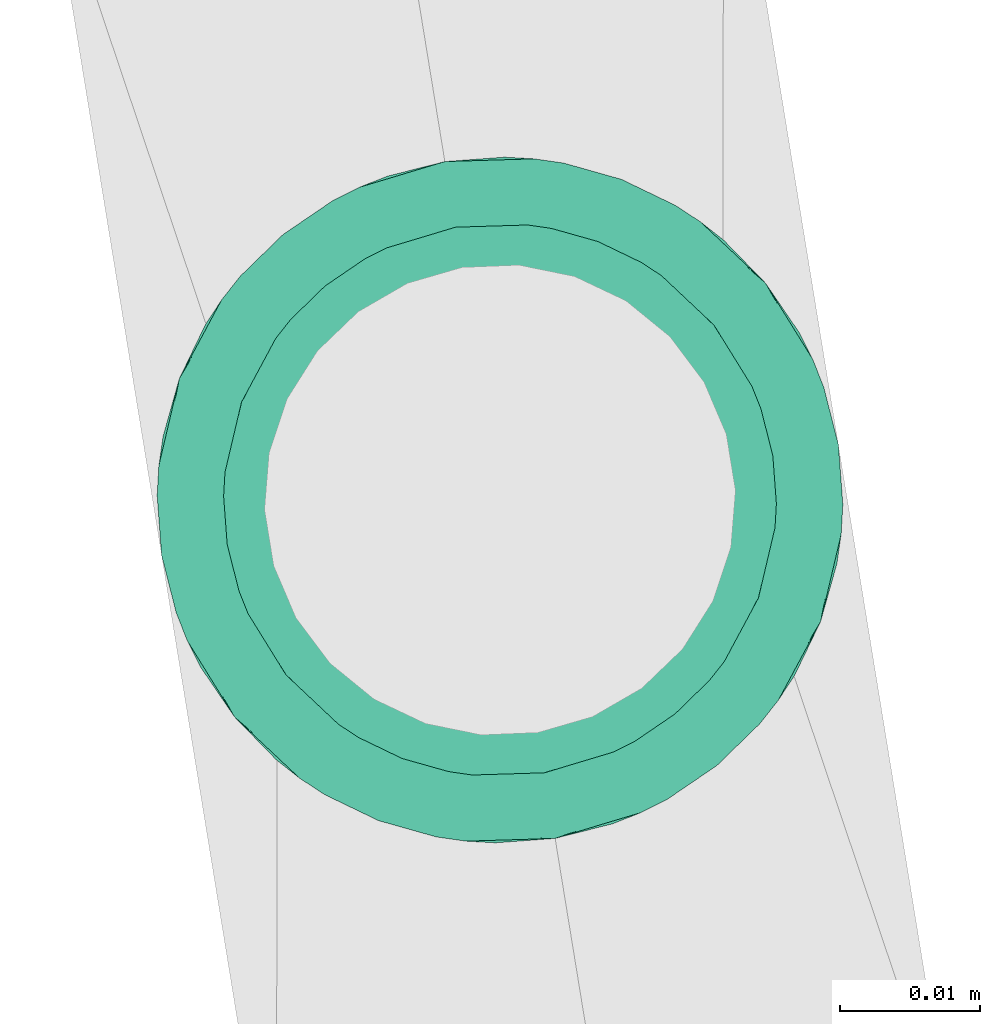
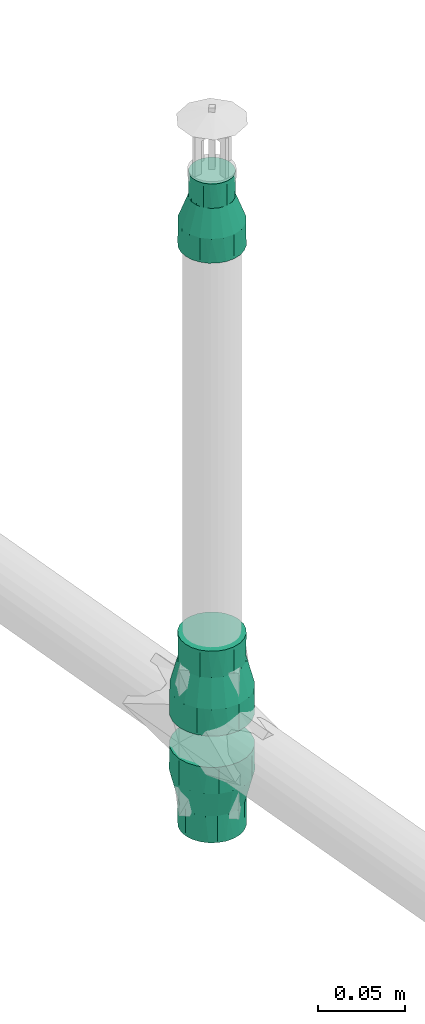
# One storey, part 44 of 56: 3 flow fittings.
"""IFC2X3 building model written with IfcOpenShell, lengths in millimetres."""

from ifc_helpers import new_model, entity, si_unit, converted_unit, derived_unit, direction, frame, origin, origin_with_axes, place, context, subcontext, project, spatial, faceted_brep, source, transform, mapped, material, type_object, element, save


model = new_model("IFC2X3")

# Units and contexts
model_context = context("Model", 3, precision=0.01, world=origin(), true_north=direction((6.12323399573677e-17, 1.0)))
plan_context = context("Plan", 3, precision=1e-05, world=origin_with_axes())
body_context = subcontext(model_context, "Body", "Model", "MODEL_VIEW")
ifc_project = project(units=[converted_unit("PLANEANGLEUNIT", "DEGREE", entity("IfcPositiveLengthMeasure", 0.0174532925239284), si_unit("PLANEANGLEUNIT", "RADIAN"), dimensions=[0, 0, 0, 0, 0, 0, 0]), si_unit("AREAUNIT", "SQUARE_METRE"), si_unit("LENGTHUNIT", "METRE", prefix="MILLI"), si_unit("MASSUNIT", "GRAM", prefix="KILO"), si_unit("POWERUNIT", "WATT"), si_unit("PRESSUREUNIT", "PASCAL", prefix="KILO"), si_unit("FORCEUNIT", "NEWTON", prefix="KILO"), si_unit("ELECTRICVOLTAGEUNIT", "VOLT"), si_unit("ELECTRICCURRENTUNIT", "AMPERE"), si_unit("THERMODYNAMICTEMPERATUREUNIT", "DEGREE_CELSIUS"), si_unit("TIMEUNIT", "SECOND"), si_unit("VOLUMEUNIT", "CUBIC_METRE"), derived_unit("LINEARVELOCITYUNIT", [(si_unit("LENGTHUNIT", "METRE"), 1), (si_unit("TIMEUNIT", "SECOND"), -1)]), derived_unit("VOLUMETRICFLOWRATEUNIT", [(si_unit("VOLUMEUNIT", "CUBIC_METRE"), 1), (si_unit("TIMEUNIT", "SECOND"), -1)]), derived_unit("THERMALTRANSMITTANCEUNIT", [(si_unit("POWERUNIT", "WATT"), 1), (si_unit("THERMODYNAMICTEMPERATUREUNIT", "KELVIN"), -1), (si_unit("AREAUNIT", "SQUARE_METRE"), -1)]), derived_unit("SOUNDPRESSUREUNIT", [(si_unit("PRESSUREUNIT", "PASCAL"), 1)])], contexts=[model_context, plan_context])

# Site, building, storey
site_placement = place(None, frame((-3.09682673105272e-06, 1.93776733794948e-05, 0.0), z_axis=(0.0, 0.0, 1.0), x_axis=(-0.160806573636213, 0.986985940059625, 0.0)))
site = spatial("IfcSite", under=ifc_project, at=site_placement, Name="Default", CompositionType="ELEMENT")
building_placement = place(site_placement, frame((0.0, 0.0, 0.0), z_axis=(0.0, 0.0, 1.0), x_axis=(1.0, -2.77555756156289e-17, 0.0)))
building = spatial("IfcBuilding", under=site, at=building_placement, Name="Bygning (endres i Project Information)", CompositionType="ELEMENT")
storey_placement = place(building_placement, frame((0.0, 0.0, 51360.0000000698), z_axis=(0.0, 0.0, 1.0), x_axis=(1.0, -2.77555756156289e-17, 0.0)))
storey = spatial("IfcBuildingStorey", under=building, at=storey_placement, Name="H01-Nivå D+0,36", CompositionType="ELEMENT", Elevation=51360.0000000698)

# Flow fittings
ifc_material = material(Name="3320.001")
pipe_fitting_type_1 = type_object("IfcPipeFittingType", Name="RS_53_PIF_UN_Reducing-Socket-EN10241_MC_gen:RS_53_PIF_UN_Reducing-Socket-EN10241_MC_gen", PredefinedType="NOTDEFINED", material=ifc_material)
shared_shape_1 = source(origin(), body_context, "Body", "Brep", [
    faceted_brep([(0.0, 5.11167614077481, 19.0770350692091), (0.0, 9.87500000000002, 17.1040017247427), (0.0, 13.9653589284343, 13.9653589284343), (0.0, 17.1040017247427, 9.87499999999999), (0.0, 19.0770350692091, 5.11167614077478), (0.0, 19.75, 0.0), (0.0, 19.0770350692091, -5.1116761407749), (0.0, 17.1040017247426, -9.8750000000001), (0.0, 13.9653589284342, -13.9653589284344), (0.0, 9.87499999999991, -17.1040017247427), (0.0, 5.11167614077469, -19.0770350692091), (0.0, 0.0, -19.75), (0.0, -5.11167614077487, -19.0770350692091), (0.0, -9.87500000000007, -17.1040017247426), (0.0, -13.9653589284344, -13.9653589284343), (0.0, -17.1040017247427, -9.87499999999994), (0.0, -19.0770350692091, -5.11167614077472), (0.0, -19.75, 0.0), (0.0, -19.0770350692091, 5.11167614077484), (0.0, -17.1040017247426, 9.87500000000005), (0.0, -13.9653589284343, 13.9653589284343), (0.0, -9.87499999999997, 17.1040017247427), (0.0, -5.11167614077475, 19.0770350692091), (0.0, 0.0, 19.75), (17.0, -6.65118285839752, -18.277344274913), (17.0, -15.1289479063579, -12.6955675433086), (17.0, -16.8438814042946, -9.72538978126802), (17.0, -18.5588149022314, -6.7552120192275), (17.0, -9.87413131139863, -17.1045032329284), (17.0, -12.5015396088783, -14.9000353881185), (17.0, -19.1544074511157, -3.37760600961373), (17.0, -3.42823440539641, -19.4501853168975), (17.0, 3.43119786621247, -19.4496627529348), (17.0, 0.0014817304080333, -19.4499240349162), (17.0, -19.75, 0.0), (17.0, 6.65396758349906, -18.2763306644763), (17.0, 9.87673730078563, -17.1029985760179), (17.0, 18.5598439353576, -6.75238425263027), (17.0, 16.8453630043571, -9.7228232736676), (17.0, 15.1308820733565, -12.6932622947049), (17.0, 12.5038096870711, -14.8981304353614), (17.0, 19.75, 0.0), (17.0, 15.1308820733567, 12.6932622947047), (17.0, 16.8453630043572, 9.72282327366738), (17.0, 18.5598439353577, 6.75238425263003), (17.0, 9.87673730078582, 17.1029985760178), (17.0, 12.5038096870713, 14.8981304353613), (17.0, 3.43119786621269, 19.4496627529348), (17.0, 6.65396758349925, 18.2763306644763), (17.0, -3.4282344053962, 19.4501853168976), (17.0, 0.00148173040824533, 19.4499240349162), (17.0, -15.1289479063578, 12.6955675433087), (17.0, -6.65118285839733, 18.277344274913), (17.0, -9.87413131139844, 17.1045032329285), (17.0, -12.5015396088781, 14.9000353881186), (17.0, -19.1544074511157, 3.37760600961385), (17.0, -18.5588149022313, 6.75521201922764), (17.0, -16.8438814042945, 9.72538978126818), (34.0, 13.5000000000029, 0.0), (34.0, 12.6868795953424, -4.61444320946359), (34.0, -4.54589529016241, -12.4935366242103), (34.0, -2.34276817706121, -13.2951659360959), (34.0, 6.75195505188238, -11.6902139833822), (34.0, 0.00166747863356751, -13.2948718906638), (34.0, 2.34610313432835, -13.2945778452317), (34.0, 10.3432928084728, -8.67561489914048), (34.0, 8.54762393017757, -10.1829144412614), (34.0, 4.54902909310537, -12.492395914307), (34.0, 11.5150862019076, -6.64502905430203), (34.0, -6.74902240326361, -11.6919073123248), (34.0, -13.4999999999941, 0.0), (34.0, -13.0928608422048, -2.30881275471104), (34.0, -10.3411162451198, -8.6782091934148), (34.0, -8.54506932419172, -10.1850582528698), (34.0, -12.6857216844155, -4.61762550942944), (34.0, -11.5134189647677, -6.64791735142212), (34.0, -13.0928608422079, 2.30881275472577), (34.0, -12.6857216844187, 4.6176255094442), (34.0, 2.34610313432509, 13.2945778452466), (34.0, 4.54902909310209, 12.4923959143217), (34.0, -10.3411162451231, 8.67820919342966), (34.0, 0.00166747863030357, 13.2948718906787), (34.0, -6.74902240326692, 11.6919073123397), (34.0, -8.54506932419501, 10.1850582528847), (34.0, -11.5134189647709, 6.64791735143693), (34.0, -2.34276817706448, 13.2951659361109), (34.0, -4.5458952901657, 12.4935366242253), (34.0, 12.6868795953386, 4.61444320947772), (34.0, 11.5150862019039, 6.64502905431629), (34.0, 10.3432928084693, 8.67561489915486), (34.0, 6.7519550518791, 11.6902139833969), (34.0, 8.54762393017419, 10.1829144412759), (51.0, 3.49405710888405, -13.0399986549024), (51.0, 6.75000000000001, -11.6913429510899), (51.0, 9.5459415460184, -9.54594154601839), (51.0, 11.6913429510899, -6.74999999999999), (51.0, 13.0399986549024, -3.49405710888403), (51.0, 13.5, 0.0), (51.0, 13.0399986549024, 3.49405710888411), (51.0, 11.6913429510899, 6.75000000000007), (51.0, 9.54594154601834, 9.54594154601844), (51.0, 6.74999999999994, 11.69134295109), (51.0, 3.49405710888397, 13.0399986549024), (51.0, 0.0, 13.5), (51.0, -3.49405710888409, 13.0399986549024), (51.0, -6.75000000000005, 11.6913429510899), (51.0, -9.54594154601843, 9.54594154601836), (51.0, -11.6913429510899, 6.74999999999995), (51.0, -13.0399986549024, 3.49405710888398), (51.0, -13.5, 0.0), (51.0, -13.0399986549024, -3.49405710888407), (51.0, -11.6913429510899, -6.75000000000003), (51.0, -9.54594154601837, -9.54594154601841), (51.0, -6.74999999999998, -11.6913429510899), (51.0, -3.49405710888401, -13.0399986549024), (51.0, 0.0, -13.5)], [[[0, 1, 2, 3, 4, 5, 6, 7, 8, 9, 10, 11, 12, 13, 14, 15, 16, 17, 18, 19, 20, 21, 22, 23]], [[24, 13, 12]], [[15, 14, 25]], [[15, 25, 26, 27]], [[28, 29, 13]], [[16, 27, 30]], [[30, 17, 16]], [[15, 27, 16]], [[12, 31, 24]], [[25, 14, 29]], [[11, 32, 33, 31]], [[24, 28, 13]], [[13, 29, 14]], [[30, 34, 17]], [[32, 11, 10]], [[35, 9, 36]], [[7, 37, 38, 39]], [[9, 35, 10]], [[7, 6, 37]], [[8, 39, 40]], [[32, 10, 35]], [[7, 39, 8]], [[40, 36, 9]], [[6, 41, 37]], [[6, 5, 41]], [[11, 31, 12]], [[40, 9, 8]], [[41, 5, 4]], [[3, 2, 42]], [[3, 42, 43, 44]], [[45, 46, 1]], [[44, 41, 4]], [[0, 47, 48]], [[42, 2, 46]], [[23, 49, 50, 47]], [[1, 46, 2]], [[49, 23, 22]], [[19, 51, 20]], [[52, 21, 53]], [[3, 44, 4]], [[48, 45, 1]], [[54, 53, 21]], [[17, 34, 55]], [[21, 52, 22]], [[20, 51, 54]], [[49, 22, 52]], [[48, 1, 0]], [[17, 55, 18]], [[56, 19, 18]], [[18, 55, 56]], [[54, 21, 20]], [[57, 51, 19, 56]], [[23, 47, 0]], [[41, 58, 59]], [[60, 31, 61]], [[40, 62, 36]], [[63, 32, 64]], [[65, 39, 38]], [[64, 32, 35]], [[61, 33, 63]], [[37, 41, 59]], [[62, 40, 66]], [[40, 39, 66]], [[35, 36, 67]], [[65, 38, 68]], [[37, 68, 38]], [[64, 35, 67]], [[61, 31, 33]], [[69, 28, 24]], [[69, 24, 60]], [[70, 30, 71]], [[72, 29, 73]], [[30, 70, 34]], [[74, 27, 26]], [[68, 37, 59]], [[72, 25, 29]], [[27, 74, 71]], [[31, 60, 24]], [[29, 28, 73]], [[75, 26, 25]], [[67, 36, 62]], [[66, 39, 65]], [[27, 71, 30]], [[74, 26, 75]], [[73, 28, 69]], [[63, 33, 32]], [[75, 25, 72]], [[56, 76, 77]], [[48, 78, 79]], [[54, 51, 80]], [[81, 47, 50]], [[57, 56, 77]], [[52, 53, 82]], [[82, 53, 83]], [[55, 70, 76]], [[70, 55, 34]], [[84, 51, 57]], [[50, 85, 81]], [[56, 55, 76]], [[86, 49, 52]], [[83, 53, 54]], [[81, 78, 47]], [[48, 47, 78]], [[80, 51, 84]], [[49, 85, 50]], [[87, 44, 88]], [[87, 58, 41]], [[43, 42, 89]], [[57, 77, 84]], [[46, 45, 90]], [[85, 49, 86]], [[88, 44, 43]], [[54, 80, 83]], [[91, 42, 46]], [[52, 82, 86]], [[89, 42, 91]], [[87, 41, 44]], [[90, 45, 79]], [[46, 90, 91]], [[79, 45, 48]], [[43, 89, 88]], [[92, 93, 94, 95, 96, 97, 98, 99, 100, 101, 102, 103, 104, 105, 106, 107, 108, 109, 110, 111, 112, 113, 114, 115]], [[58, 97, 96]], [[95, 94, 65]], [[95, 65, 68, 59]], [[62, 66, 93]], [[59, 58, 96]], [[92, 64, 67]], [[65, 94, 66]], [[115, 61, 63, 64]], [[93, 66, 94]], [[67, 93, 92]], [[67, 62, 93]], [[95, 59, 96]], [[114, 61, 115]], [[111, 110, 74]], [[73, 113, 112]], [[109, 71, 110]], [[111, 74, 75, 72]], [[109, 70, 71]], [[60, 61, 114]], [[113, 69, 60]], [[111, 72, 112]], [[113, 60, 114]], [[112, 72, 73]], [[115, 64, 92]], [[71, 74, 110]], [[73, 69, 113]], [[86, 105, 104]], [[107, 106, 80]], [[107, 80, 84, 77]], [[82, 83, 105]], [[108, 77, 76]], [[76, 70, 109]], [[76, 109, 108]], [[104, 85, 86]], [[80, 106, 83]], [[103, 78, 81, 85]], [[91, 101, 100]], [[105, 83, 106]], [[86, 82, 105]], [[78, 103, 102]], [[79, 101, 90]], [[99, 87, 88, 89]], [[101, 79, 102]], [[99, 98, 87]], [[100, 89, 91]], [[78, 102, 79]], [[103, 85, 104]], [[99, 89, 100]], [[98, 58, 87]], [[107, 77, 108]], [[98, 97, 58]], [[91, 90, 101]]]),
])
flow_fitting_1_placement = place(storey_placement, frame((1000236.26325463, -395286.663841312, 3707.99999993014), z_axis=(2.77555756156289e-17, 1.0, 0.0), x_axis=(0.0, 0.0, 1.0)))
element("IfcFlowFitting", 1, at=flow_fitting_1_placement, inside=storey, type_object=pipe_fitting_type_1, material=ifc_material, Name="RS_53_PIF_UN_Reducing-Socket-EN10241_MC_gen:RS_53_PIF_UN_Reducing-Socket-EN10241_MC_gen", ObjectType="RS_53_PIF_UN_Reducing-Socket-EN10241_MC_gen:RS_53_PIF_UN_Reducing-Socket-EN10241_MC_gen", context=body_context, shape_type="MappedRepresentation", body=[
    mapped(shared_shape_1, transform((0.0, 0.0, 0.0), scale=1.0)),
])
pipe_fitting_type_2 = type_object("IfcPipeFittingType", Name="RS_53_PIF_UN_Reducing-Socket-EN10241_MC_gen:RS_53_PIF_UN_Reducing-Socket-EN10241_MC_gen", PredefinedType="NOTDEFINED", material=ifc_material)
shared_shape_2 = source(origin(), body_context, "Body", "Brep", [
    faceted_brep([(0.0, 0.0, 24.5), (0.0, 6.34106660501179, 23.6651827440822), (0.0, 12.25, 21.2176223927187), (0.0, 17.3241161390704, 17.3241161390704), (0.0, 21.2176223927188, 12.25), (0.0, 23.6651827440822, 6.34106660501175), (0.0, 24.5, 0.0), (0.0, 23.6651827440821, -6.34106660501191), (0.0, 21.2176223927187, -12.2500000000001), (0.0, 17.3241161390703, -17.3241161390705), (0.0, 12.2499999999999, -21.2176223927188), (0.0, 6.34106660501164, -23.6651827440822), (0.0, 0.0, -24.5), (0.0, -6.34106660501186, -23.6651827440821), (0.0, -12.2500000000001, -21.2176223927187), (0.0, -17.3241161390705, -17.3241161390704), (0.0, -21.2176223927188, -12.2499999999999), (0.0, -23.6651827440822, -6.34106660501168), (0.0, -24.5, 0.0), (0.0, -23.6651827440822, 6.34106660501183), (0.0, -21.2176223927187, 12.2500000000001), (0.0, -17.3241161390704, 17.3241161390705), (0.0, -12.25, 21.2176223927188), (0.0, -6.34106660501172, 23.6651827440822), (18.6666666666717, -8.25137606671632, -22.6729794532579), (18.6666666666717, -18.7677686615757, -15.7486780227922), (18.6666666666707, -20.8950763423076, -12.0642027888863), (18.6666666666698, -23.0223840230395, -8.37972755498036), (18.6666666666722, -12.2493529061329, -21.2179959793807), (18.6666666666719, -15.5085607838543, -18.4833370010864), (18.6666666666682, -23.7125607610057, -4.46565710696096), (18.6666666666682, -23.7611920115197, -4.18986377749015), (18.6666666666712, -4.25339922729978, -24.1279629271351), (18.6666666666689, 4.25560674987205, -24.1275736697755), (18.6666666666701, 0.00110376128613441, -24.1277682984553), (18.6666666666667, -24.5, 0.0), (18.6666666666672, 8.25345045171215, -22.6722244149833), (18.6666666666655, 12.2512941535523, -21.2168751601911), (18.6666666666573, 23.0231506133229, -8.37762113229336), (18.6666666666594, 20.8961800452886, -12.062290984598), (18.6666666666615, 18.7692094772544, -15.7469608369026), (18.6666666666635, 15.5102518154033, -18.4819179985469), (18.6666666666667, 24.5, 0.0), (18.6666666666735, 18.7692094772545, 15.7469608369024), (18.666666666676, 20.8961800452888, 12.0622909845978), (18.6666666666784, 23.023150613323, 8.3776211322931), (18.6666666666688, 12.2512941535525, 21.216875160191), (18.6666666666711, 15.5102518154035, 18.4819179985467), (18.6666666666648, 4.25560674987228, 24.1275736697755), (18.6666666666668, 8.25345045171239, 22.6722244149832), (18.6666666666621, -4.25339922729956, 24.1279629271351), (18.6666666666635, 0.00110376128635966, 24.1277682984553), (18.6666666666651, -23.7611920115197, 4.1898637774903), (18.6666666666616, -8.25137606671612, 22.672979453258), (18.666666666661, -12.2493529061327, 21.2179959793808), (18.6666666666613, -15.5085607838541, 18.4833370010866), (18.6666666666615, -18.7677686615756, 15.7486780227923), (18.6666666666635, -23.0223840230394, 8.37972755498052), (18.6666666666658, -23.7125607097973, 4.46565739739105), (18.6666666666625, -20.8950763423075, 12.0642027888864), (37.3333333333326, 19.750000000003, 0.0), (37.3333333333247, 18.5595959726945, -6.75306577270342), (37.3333333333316, 9.87626627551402, -17.1032705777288), (37.3333333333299, 12.5033702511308, -14.8985095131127), (37.3333333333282, 15.1304742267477, -12.6937484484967), (37.3333333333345, 3.43075149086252, -19.4497414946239), (37.333333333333, 6.65350888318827, -18.2765060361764), (37.3333333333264, 16.8450350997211, -9.72340711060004), (37.3333333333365, -3.42859151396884, -19.4501223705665), (37.3333333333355, 0.00107998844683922, -19.4499319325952), (37.3333333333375, -9.87436684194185, -17.1043672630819), (37.333333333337, -6.65147917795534, -18.2772448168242), (37.3333333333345, -19.1544229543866, -3.37756341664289), (37.3333333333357, -18.558845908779, -6.75512683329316), (37.3333333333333, -19.7499999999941, 0.0), (37.3333333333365, -16.8439551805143, -9.72527774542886), (37.3333333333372, -15.1290644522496, -12.6954286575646), (37.3333333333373, -12.5017156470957, -14.8998979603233), (37.3333333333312, -18.5588459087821, 6.755126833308), (37.3333333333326, -19.1544229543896, 3.37756341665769), (37.3333333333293, -15.1290644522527, 12.6954286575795), (37.3333333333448, 18.559595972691, 6.75306577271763), (37.3333333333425, 16.8450350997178, 9.72340711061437), (37.3333333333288, -9.87436684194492, 17.104367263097), (37.3333333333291, -12.5017156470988, 14.8998979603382), (37.3333333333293, -6.65147917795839, 18.2772448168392), (37.3333333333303, -16.8439551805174, 9.72527774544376), (37.333333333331, 0.00107998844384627, 19.4499319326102), (37.3333333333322, 3.43075149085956, 19.4497414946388), (37.3333333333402, 15.1304742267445, 12.6937484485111), (37.333333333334, 6.65350888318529, 18.2765060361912), (37.3333333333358, 9.87626627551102, 17.1032705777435), (37.333333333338, 12.5033702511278, 14.8985095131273), (37.3333333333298, -3.42859151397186, 19.4501223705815), (56.0, 5.11167614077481, -19.0770350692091), (56.0, 9.87500000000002, -17.1040017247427), (56.0, 13.9653589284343, -13.9653589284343), (56.0, 17.1040017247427, -9.87499999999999), (56.0, 19.0770350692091, -5.11167614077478), (56.0, 19.75, 0.0), (56.0, 19.0770350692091, 5.1116761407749), (56.0, 17.1040017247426, 9.8750000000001), (56.0, 13.9653589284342, 13.9653589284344), (56.0, 9.87499999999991, 17.1040017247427), (56.0, 5.11167614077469, 19.0770350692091), (56.0, 0.0, 19.75), (56.0, -5.11167614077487, 19.0770350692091), (56.0, -9.87500000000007, 17.1040017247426), (56.0, -13.9653589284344, 13.9653589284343), (56.0, -17.1040017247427, 9.87499999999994), (56.0, -19.0770350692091, 5.11167614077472), (56.0, -19.75, 0.0), (56.0, -19.0770350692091, -5.11167614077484), (56.0, -17.1040017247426, -9.87500000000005), (56.0, -13.9653589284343, -13.9653589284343), (56.0, -9.87499999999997, -17.1040017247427), (56.0, -5.11167614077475, -19.0770350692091), (56.0, 0.0, -19.75)], [[[0, 1, 2, 3, 4, 5, 6, 7, 8, 9, 10, 11, 12, 13, 14, 15, 16, 17, 18, 19, 20, 21, 22, 23]], [[24, 14, 13]], [[16, 15, 25]], [[16, 25, 26, 27]], [[28, 29, 14]], [[17, 27, 30, 31]], [[31, 18, 17]], [[16, 27, 17]], [[13, 32, 24]], [[25, 15, 29]], [[12, 33, 34, 32]], [[24, 28, 14]], [[14, 29, 15]], [[31, 35, 18]], [[33, 12, 11]], [[36, 10, 37]], [[8, 38, 39, 40]], [[10, 36, 11]], [[8, 7, 38]], [[9, 40, 41]], [[33, 11, 36]], [[8, 40, 9]], [[41, 37, 10]], [[7, 42, 38]], [[7, 6, 42]], [[12, 32, 13]], [[41, 10, 9]], [[42, 6, 5]], [[4, 3, 43]], [[4, 43, 44, 45]], [[46, 47, 2]], [[45, 42, 5]], [[1, 48, 49]], [[43, 3, 47]], [[0, 50, 51, 48]], [[2, 47, 3]], [[50, 0, 23]], [[0, 48, 1]], [[18, 52, 19]], [[53, 22, 54]], [[49, 2, 1]], [[55, 22, 21]], [[35, 52, 18]], [[4, 45, 5]], [[22, 53, 23]], [[21, 56, 55]], [[50, 23, 53]], [[49, 46, 2]], [[20, 56, 21]], [[57, 20, 19]], [[19, 52, 58, 57]], [[55, 54, 22]], [[59, 56, 20, 57]], [[42, 60, 61]], [[41, 62, 37]], [[63, 40, 64]], [[40, 39, 64]], [[33, 36, 65]], [[65, 36, 66]], [[38, 42, 61]], [[64, 39, 67]], [[41, 40, 63]], [[36, 37, 66]], [[62, 41, 63]], [[38, 67, 39]], [[68, 34, 69]], [[68, 32, 34]], [[24, 70, 28]], [[32, 68, 71]], [[72, 35, 31, 30]], [[73, 27, 26]], [[72, 74, 35]], [[26, 75, 73]], [[76, 25, 29]], [[29, 77, 76]], [[70, 24, 71]], [[24, 32, 71]], [[70, 77, 28]], [[76, 75, 25]], [[28, 77, 29]], [[25, 75, 26]], [[73, 30, 27]], [[30, 73, 72]], [[66, 37, 62]], [[69, 34, 33]], [[69, 33, 65]], [[67, 38, 61]], [[78, 58, 79]], [[80, 55, 56]], [[81, 45, 82]], [[78, 59, 57]], [[83, 53, 54]], [[55, 80, 84]], [[79, 58, 52, 35]], [[78, 57, 58]], [[84, 54, 55]], [[85, 50, 53]], [[79, 35, 74]], [[86, 56, 59]], [[84, 83, 54]], [[48, 87, 88]], [[49, 48, 88]], [[59, 78, 86]], [[53, 83, 85]], [[87, 48, 51]], [[81, 60, 42]], [[44, 43, 89]], [[90, 46, 49]], [[47, 46, 91]], [[86, 80, 56]], [[82, 45, 44]], [[49, 88, 90]], [[92, 43, 47]], [[91, 46, 90]], [[51, 50, 93]], [[42, 45, 81]], [[85, 93, 50]], [[44, 89, 82]], [[51, 93, 87]], [[47, 91, 92]], [[89, 43, 92]], [[94, 95, 96, 97, 98, 99, 100, 101, 102, 103, 104, 105, 106, 107, 108, 109, 110, 111, 112, 113, 114, 115, 116, 117]], [[60, 99, 98]], [[97, 96, 64]], [[97, 64, 67, 61]], [[62, 63, 95]], [[61, 60, 98]], [[94, 65, 66]], [[64, 96, 63]], [[117, 68, 69, 65]], [[95, 63, 96]], [[117, 116, 68]], [[77, 70, 115]], [[66, 95, 94]], [[115, 70, 71]], [[113, 112, 73]], [[115, 71, 116]], [[117, 65, 94]], [[97, 61, 98]], [[72, 111, 74]], [[71, 68, 116]], [[113, 76, 114]], [[114, 76, 77]], [[77, 115, 114]], [[113, 73, 75, 76]], [[111, 72, 112]], [[66, 62, 95]], [[72, 73, 112]], [[85, 107, 106]], [[109, 108, 80]], [[109, 80, 86, 78]], [[83, 84, 107]], [[110, 78, 79]], [[79, 111, 110]], [[109, 78, 110]], [[106, 93, 85]], [[80, 108, 84]], [[105, 88, 87, 93]], [[85, 83, 107]], [[107, 84, 108]], [[79, 74, 111]], [[88, 105, 104]], [[90, 103, 91]], [[101, 81, 82, 89]], [[103, 90, 104]], [[101, 100, 81]], [[102, 89, 92]], [[88, 104, 90]], [[101, 89, 102]], [[92, 91, 103]], [[100, 60, 81]], [[100, 99, 60]], [[105, 93, 106]], [[92, 103, 102]]]),
])
flow_fitting_2_placement = place(storey_placement, frame((1000236.26325463, -395286.663841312, 3380.93333333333), z_axis=(2.77555756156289e-17, 1.0, 0.0), x_axis=(0.0, 0.0, 1.0)))
element("IfcFlowFitting", 2, at=flow_fitting_2_placement, inside=storey, type_object=pipe_fitting_type_2, material=ifc_material, Name="RS_53_PIF_UN_Reducing-Socket-EN10241_MC_gen:RS_53_PIF_UN_Reducing-Socket-EN10241_MC_gen", ObjectType="RS_53_PIF_UN_Reducing-Socket-EN10241_MC_gen:RS_53_PIF_UN_Reducing-Socket-EN10241_MC_gen", context=body_context, shape_type="MappedRepresentation", body=[
    mapped(shared_shape_2, transform((0.0, 0.0, 0.0), scale=1.0)),
])
pipe_fitting_type_3 = type_object("IfcPipeFittingType", Name="RS_53_PIF_UN_Reducing-Socket-EN10241_MC_gen:RS_53_PIF_UN_Reducing-Socket-EN10241_MC_gen", PredefinedType="NOTDEFINED", material=ifc_material)
shared_shape_3 = source(origin(), body_context, "Body", "Brep", [
    faceted_brep([(0.0, -12.25, 21.2176223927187), (0.0, -6.34106660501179, 23.6651827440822), (0.0, 0.0, 24.5), (0.0, 6.34106660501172, 23.6651827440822), (0.0, 12.25, 21.2176223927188), (0.0, 17.3241161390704, 17.3241161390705), (0.0, 21.2176223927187, 12.2500000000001), (0.0, 23.6651827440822, 6.34106660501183), (0.0, 24.5, 0.0), (0.0, 23.6651827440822, -6.34106660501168), (0.0, 21.2176223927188, -12.2499999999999), (0.0, 17.3241161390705, -17.3241161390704), (0.0, 12.2500000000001, -21.2176223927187), (0.0, 6.34106660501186, -23.6651827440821), (0.0, 0.0, -24.5), (0.0, -6.34106660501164, -23.6651827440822), (0.0, -12.2499999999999, -21.2176223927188), (0.0, -17.3241161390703, -17.3241161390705), (0.0, -21.2176223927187, -12.2500000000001), (0.0, -23.6651827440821, -6.34106660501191), (0.0, -24.5, 0.0), (0.0, -23.6651827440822, 6.34106660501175), (0.0, -21.2176223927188, 12.25), (0.0, -17.3241161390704, 17.3241161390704), (18.6666666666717, 8.25137606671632, -22.6729794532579), (18.6666666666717, 18.7677686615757, -15.7486780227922), (18.6666666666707, 20.8950763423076, -12.0642027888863), (18.6666666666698, 23.0223840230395, -8.37972755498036), (18.6666666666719, 15.5085607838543, -18.4833370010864), (18.6666666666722, 12.2493529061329, -21.2179959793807), (18.6666666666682, 23.7611920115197, -4.18986377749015), (18.6666666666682, 23.7125607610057, -4.46565710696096), (18.6666666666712, 4.25339922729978, -24.1279629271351), (18.6666666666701, -0.00110376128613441, -24.1277682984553), (18.6666666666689, -4.25560674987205, -24.1275736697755), (18.6666666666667, 24.5, 0.0), (18.6666666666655, -12.2512941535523, -21.2168751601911), (18.6666666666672, -8.25345045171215, -22.6722244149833), (18.6666666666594, -20.8961800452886, -12.062290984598), (18.6666666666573, -23.0231506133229, -8.37762113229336), (18.6666666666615, -18.7692094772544, -15.7469608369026), (18.6666666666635, -15.5102518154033, -18.4819179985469), (18.6666666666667, -24.5, 0.0), (18.6666666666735, -18.7692094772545, 15.7469608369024), (18.666666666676, -20.8961800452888, 12.0622909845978), (18.6666666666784, -23.023150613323, 8.3776211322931), (18.6666666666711, -15.5102518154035, 18.4819179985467), (18.6666666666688, -12.2512941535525, 21.216875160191), (18.6666666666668, -8.25345045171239, 22.6722244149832), (18.6666666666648, -4.25560674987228, 24.1275736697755), (18.6666666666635, -0.00110376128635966, 24.1277682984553), (18.6666666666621, 4.25339922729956, 24.1279629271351), (18.6666666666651, 23.7611920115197, 4.1898637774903), (18.666666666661, 12.2493529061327, 21.2179959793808), (18.6666666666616, 8.25137606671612, 22.672979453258), (18.6666666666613, 15.5085607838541, 18.4833370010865), (18.6666666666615, 18.7677686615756, 15.7486780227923), (18.6666666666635, 23.0223840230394, 8.37972755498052), (18.6666666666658, 23.7125607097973, 4.46565739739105), (18.6666666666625, 20.8950763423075, 12.0642027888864), (37.3333333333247, -18.5595959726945, -6.75306577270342), (37.3333333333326, -19.750000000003, 0.0), (37.3333333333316, -9.87626627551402, -17.1032705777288), (37.3333333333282, -15.1304742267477, -12.6937484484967), (37.3333333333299, -12.5033702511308, -14.8985095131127), (37.3333333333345, -3.43075149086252, -19.4497414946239), (37.333333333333, -6.65350888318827, -18.2765060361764), (37.3333333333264, -16.8450350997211, -9.72340711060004), (37.3333333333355, -0.00107998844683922, -19.4499319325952), (37.3333333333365, 3.42859151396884, -19.4501223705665), (37.3333333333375, 9.87436684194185, -17.1043672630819), (37.333333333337, 6.65147917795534, -18.2772448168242), (37.3333333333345, 19.1544229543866, -3.37756341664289), (37.3333333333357, 18.558845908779, -6.75512683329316), (37.3333333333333, 19.7499999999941, 0.0), (37.3333333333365, 16.8439551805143, -9.72527774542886), (37.3333333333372, 15.1290644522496, -12.6954286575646), (37.3333333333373, 12.5017156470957, -14.8998979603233), (37.3333333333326, 19.1544229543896, 3.37756341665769), (37.3333333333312, 18.5588459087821, 6.755126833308), (37.3333333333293, 15.1290644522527, 12.6954286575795), (37.3333333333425, -16.8450350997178, 9.72340711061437), (37.3333333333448, -18.559595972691, 6.75306577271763), (37.3333333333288, 9.87436684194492, 17.104367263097), (37.3333333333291, 12.5017156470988, 14.8998979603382), (37.3333333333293, 6.65147917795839, 18.2772448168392), (37.3333333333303, 16.8439551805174, 9.72527774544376), (37.3333333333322, -3.43075149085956, 19.4497414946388), (37.333333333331, -0.00107998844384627, 19.4499319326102), (37.3333333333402, -15.1304742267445, 12.6937484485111), (37.333333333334, -6.65350888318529, 18.2765060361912), (37.3333333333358, -9.87626627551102, 17.1032705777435), (37.333333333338, -12.5033702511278, 14.8985095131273), (37.3333333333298, 3.42859151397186, 19.4501223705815), (56.0, 0.0, -19.75), (56.0, 5.11167614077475, -19.0770350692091), (56.0, 9.87499999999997, -17.1040017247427), (56.0, 13.9653589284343, -13.9653589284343), (56.0, 17.1040017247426, -9.87500000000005), (56.0, 19.0770350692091, -5.11167614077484), (56.0, 19.75, 0.0), (56.0, 19.0770350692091, 5.11167614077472), (56.0, 17.1040017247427, 9.87499999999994), (56.0, 13.9653589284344, 13.9653589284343), (56.0, 9.87500000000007, 17.1040017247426), (56.0, 5.11167614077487, 19.0770350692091), (56.0, 0.0, 19.75), (56.0, -5.11167614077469, 19.0770350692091), (56.0, -9.87499999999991, 17.1040017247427), (56.0, -13.9653589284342, 13.9653589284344), (56.0, -17.1040017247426, 9.8750000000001), (56.0, -19.0770350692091, 5.1116761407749), (56.0, -19.75, 0.0), (56.0, -19.0770350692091, -5.11167614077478), (56.0, -17.1040017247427, -9.87499999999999), (56.0, -13.9653589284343, -13.9653589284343), (56.0, -9.87500000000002, -17.1040017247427), (56.0, -5.11167614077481, -19.0770350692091)], [[[0, 1, 2, 3, 4, 5, 6, 7, 8, 9, 10, 11, 12, 13, 14, 15, 16, 17, 18, 19, 20, 21, 22, 23]], [[13, 12, 24]], [[25, 11, 10]], [[26, 25, 10, 27]], [[12, 28, 29]], [[9, 30, 31, 27]], [[9, 8, 30]], [[9, 27, 10]], [[24, 32, 13]], [[28, 11, 25]], [[33, 34, 14, 32]], [[12, 29, 24]], [[11, 28, 12]], [[8, 35, 30]], [[15, 14, 34]], [[36, 16, 37]], [[38, 39, 18, 40]], [[15, 37, 16]], [[39, 19, 18]], [[41, 40, 17]], [[37, 15, 34]], [[17, 40, 18]], [[16, 36, 41]], [[39, 42, 19]], [[42, 20, 19]], [[13, 32, 14]], [[17, 16, 41]], [[21, 20, 42]], [[43, 23, 22]], [[44, 43, 22, 45]], [[0, 46, 47]], [[21, 42, 45]], [[48, 49, 1]], [[46, 23, 43]], [[50, 51, 2, 49]], [[23, 46, 0]], [[3, 2, 51]], [[1, 49, 2]], [[7, 52, 8]], [[53, 4, 54]], [[1, 0, 48]], [[5, 4, 55]], [[8, 52, 35]], [[21, 45, 22]], [[3, 54, 4]], [[55, 56, 5]], [[54, 3, 51]], [[0, 47, 48]], [[5, 56, 6]], [[7, 6, 57]], [[7, 57, 58, 52]], [[4, 53, 55]], [[6, 56, 59, 57]], [[60, 61, 42]], [[36, 62, 41]], [[63, 40, 64]], [[63, 38, 40]], [[65, 37, 34]], [[66, 37, 65]], [[60, 42, 39]], [[67, 38, 63]], [[64, 40, 41]], [[66, 36, 37]], [[64, 41, 62]], [[38, 67, 39]], [[68, 33, 69]], [[33, 32, 69]], [[29, 70, 24]], [[71, 69, 32]], [[72, 31, 30, 35]], [[26, 27, 73]], [[35, 74, 72]], [[73, 75, 26]], [[28, 25, 76]], [[76, 77, 28]], [[71, 24, 70]], [[71, 32, 24]], [[29, 77, 70]], [[25, 75, 76]], [[28, 77, 29]], [[26, 75, 25]], [[27, 31, 73]], [[72, 73, 31]], [[62, 36, 66]], [[34, 33, 68]], [[65, 34, 68]], [[60, 39, 67]], [[78, 58, 79]], [[56, 55, 80]], [[81, 45, 82]], [[57, 59, 79]], [[53, 54, 83]], [[84, 80, 55]], [[78, 35, 52, 58]], [[58, 57, 79]], [[55, 53, 84]], [[54, 51, 85]], [[74, 35, 78]], [[59, 56, 86]], [[53, 83, 84]], [[87, 88, 49]], [[87, 49, 48]], [[86, 79, 59]], [[85, 83, 54]], [[50, 49, 88]], [[42, 61, 82]], [[89, 43, 44]], [[48, 47, 90]], [[91, 47, 46]], [[56, 80, 86]], [[44, 45, 81]], [[90, 87, 48]], [[46, 43, 92]], [[90, 47, 91]], [[93, 51, 50]], [[82, 45, 42]], [[51, 93, 85]], [[81, 89, 44]], [[88, 93, 50]], [[92, 91, 46]], [[92, 43, 89]], [[94, 95, 96, 97, 98, 99, 100, 101, 102, 103, 104, 105, 106, 107, 108, 109, 110, 111, 112, 113, 114, 115, 116, 117]], [[113, 112, 61]], [[63, 115, 114]], [[67, 63, 114, 60]], [[116, 64, 62]], [[113, 61, 60]], [[66, 65, 117]], [[64, 115, 63]], [[68, 69, 94, 65]], [[115, 64, 116]], [[69, 95, 94]], [[96, 70, 77]], [[117, 116, 66]], [[71, 70, 96]], [[73, 99, 98]], [[95, 71, 96]], [[117, 65, 94]], [[113, 60, 114]], [[74, 100, 72]], [[95, 69, 71]], [[97, 76, 98]], [[77, 76, 97]], [[97, 96, 77]], [[75, 73, 98, 76]], [[99, 72, 100]], [[116, 62, 66]], [[99, 73, 72]], [[105, 104, 85]], [[80, 103, 102]], [[86, 80, 102, 79]], [[104, 84, 83]], [[78, 79, 101]], [[101, 100, 78]], [[101, 79, 102]], [[85, 93, 105]], [[84, 103, 80]], [[88, 87, 106, 93]], [[104, 83, 85]], [[103, 84, 104]], [[100, 74, 78]], [[107, 106, 87]], [[91, 108, 90]], [[81, 82, 110, 89]], [[107, 90, 108]], [[82, 111, 110]], [[92, 89, 109]], [[90, 107, 87]], [[109, 89, 110]], [[108, 91, 92]], [[82, 61, 111]], [[61, 112, 111]], [[105, 93, 106]], [[109, 108, 92]]]),
])
flow_fitting_3_placement = place(storey_placement, frame((1000236.26325463, -395286.663841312, 3359.06666666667), z_axis=(1.0, -2.77555756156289e-17, 0.0), x_axis=(0.0, 0.0, -1.0)))
element("IfcFlowFitting", 3, at=flow_fitting_3_placement, inside=storey, type_object=pipe_fitting_type_3, material=ifc_material, Name="RS_53_PIF_UN_Reducing-Socket-EN10241_MC_gen:RS_53_PIF_UN_Reducing-Socket-EN10241_MC_gen", ObjectType="RS_53_PIF_UN_Reducing-Socket-EN10241_MC_gen:RS_53_PIF_UN_Reducing-Socket-EN10241_MC_gen", context=body_context, shape_type="MappedRepresentation", body=[
    mapped(shared_shape_3, transform((0.0, 0.0, 0.0), scale=1.0)),
])

save(model, "model.ifc")
